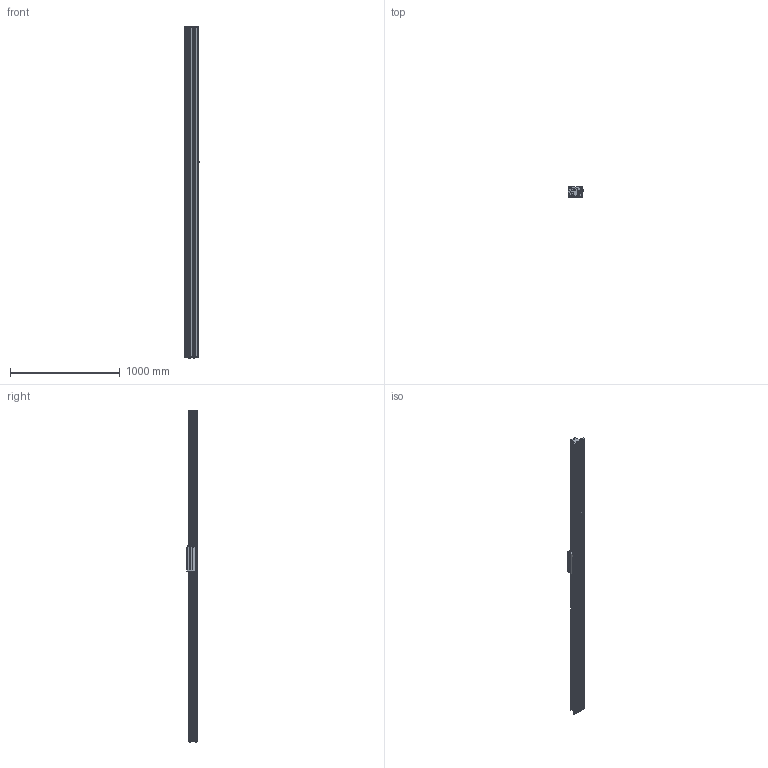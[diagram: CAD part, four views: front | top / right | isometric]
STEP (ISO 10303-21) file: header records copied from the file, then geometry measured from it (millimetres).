
FILE_DESCRIPTION (( 'STEP AP214' ), '1' );
FILE_NAME ('SINADRIVES Linear motor stage MLL20200XS-XX-1-0-ST-00-03012.STEP', '2015-07-13T06:17:17', ( 'Tecnico' ), ( '' ), 'SwSTEP 2.0', 'SolidWorks 2009', '' );
FILE_SCHEMA (( 'AUTOMOTIVE_DESIGN' ));
Length unit declared in the file: millimetre
Products named in the file (7): SINADRIVES PROFILE MLL2XXXX-2996; SINADRIVES CARRIAGE MLL20200XS-1; CARRIAGE MLL20200; Connector power+signal Y-tec 45; SINADRIVES ENDBLOCK MLL2; SINADRIVES ENDBLOCK MLL2-2; SINADRIVES Linear motor stage MLL20200XS-XX-1-0-ST-00-03012
Assembly tree (6 placements, depth 3):
  SINADRIVES Linear motor stage MLL20200XS-XX-1-0-ST-00-03012
    SINADRIVES ENDBLOCK MLL2-2
    SINADRIVES ENDBLOCK MLL2
    SINADRIVES PROFILE MLL2XXXX-2996
    SINADRIVES CARRIAGE MLL20200XS-1
      Connector power+signal Y-tec 45
      CARRIAGE MLL20200
Bounding box: 144.43 x 91 x 3020.8 mm (x, y, z)
Volume: 13250139 mm3; surface area: 2290205.6 mm2
Topology: 2 solids, 42 shells, 950 faces, 2640 edges, 1730 vertices
Faces by surface type: plane 445, cylinder 302, bspline 79, cone 70, torus 42, sphere 12
Entity records: 40587 total; most frequent: CARTESIAN_POINT 8656, ORIENTED_EDGE 5024, DIRECTION 4947, EDGE_CURVE 2622, AXIS2_PLACEMENT_3D 1781, VERTEX_POINT 1730, LINE 1385, VECTOR 1385
